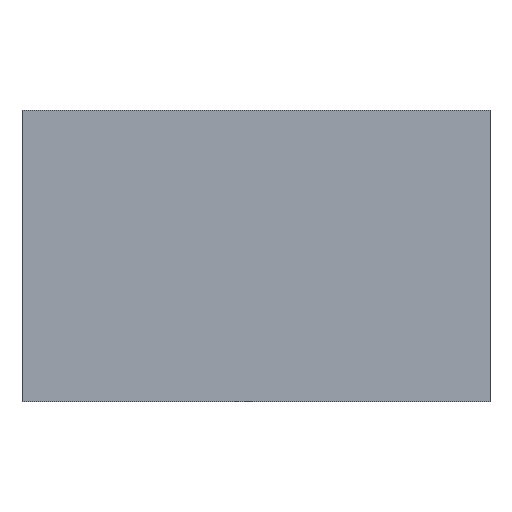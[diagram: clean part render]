
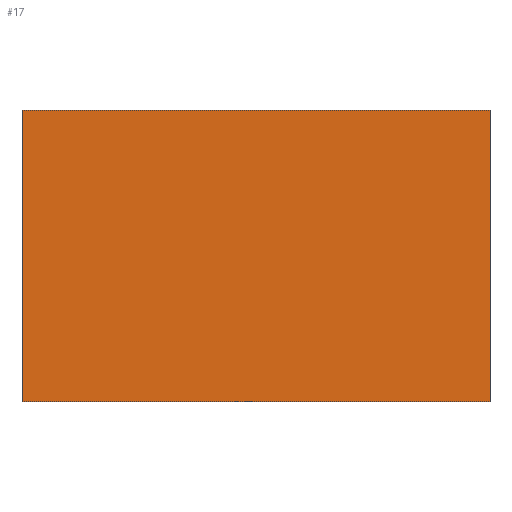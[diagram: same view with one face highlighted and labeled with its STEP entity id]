
A CAD part, left-side view. The second image highlights one B-rep face of the part: STEP entity #17.
In plain terms, the highlighted planar face has unit normal (-1, 0, 0).
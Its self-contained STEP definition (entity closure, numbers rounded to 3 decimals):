
#17 = ADVANCED_FACE('f000',(#18),#32,.F.);
#18 = FACE_BOUND('',#19,.F.);
#19 = EDGE_LOOP('',(#20,#55,#83,#111));
#20 = ORIENTED_EDGE('',*,*,#21,.F.);
#21 = EDGE_CURVE('',#22,#24,#26,.T.);
#22 = VERTEX_POINT('',#23);
#23 = CARTESIAN_POINT('',(0.,0.,0.));
#24 = VERTEX_POINT('',#25);
#25 = CARTESIAN_POINT('',(0.,0.,30.046));
#26 = SURFACE_CURVE('',#27,(#31,#43),.PCURVE_S1.);
#27 = LINE('',#28,#29);
#28 = CARTESIAN_POINT('',(0.,0.,0.));
#29 = VECTOR('',#30,1.);
#30 = DIRECTION('',(0.,0.,1.));
#31 = PCURVE('',#32,#37);
#32 = PLANE('',#33);
#33 = AXIS2_PLACEMENT_3D('',#34,#35,#36);
#34 = CARTESIAN_POINT('',(0.,0.,0.));
#35 = DIRECTION('',(1.,0.,-0.));
#36 = DIRECTION('',(0.,0.,1.));
#37 = DEFINITIONAL_REPRESENTATION('',(#38),#42);
#38 = LINE('',#39,#40);
#39 = CARTESIAN_POINT('',(0.,0.));
#40 = VECTOR('',#41,1.);
#41 = DIRECTION('',(1.,0.));
#42 = ( GEOMETRIC_REPRESENTATION_CONTEXT(2) 
PARAMETRIC_REPRESENTATION_CONTEXT() REPRESENTATION_CONTEXT('2D SPACE',''
  ) );
#43 = PCURVE('',#44,#49);
#44 = PLANE('',#45);
#45 = AXIS2_PLACEMENT_3D('',#46,#47,#48);
#46 = CARTESIAN_POINT('',(0.,0.,0.));
#47 = DIRECTION('',(-0.,1.,0.));
#48 = DIRECTION('',(0.,0.,1.));
#49 = DEFINITIONAL_REPRESENTATION('',(#50),#54);
#50 = LINE('',#51,#52);
#51 = CARTESIAN_POINT('',(0.,0.));
#52 = VECTOR('',#53,1.);
#53 = DIRECTION('',(1.,0.));
#54 = ( GEOMETRIC_REPRESENTATION_CONTEXT(2) 
PARAMETRIC_REPRESENTATION_CONTEXT() REPRESENTATION_CONTEXT('2D SPACE',''
  ) );
#55 = ORIENTED_EDGE('',*,*,#56,.T.);
#56 = EDGE_CURVE('',#22,#57,#59,.T.);
#57 = VERTEX_POINT('',#58);
#58 = CARTESIAN_POINT('',(0.,48.245,0.));
#59 = SURFACE_CURVE('',#60,(#64,#71),.PCURVE_S1.);
#60 = LINE('',#61,#62);
#61 = CARTESIAN_POINT('',(0.,0.,0.));
#62 = VECTOR('',#63,1.);
#63 = DIRECTION('',(-0.,1.,0.));
#64 = PCURVE('',#32,#65);
#65 = DEFINITIONAL_REPRESENTATION('',(#66),#70);
#66 = LINE('',#67,#68);
#67 = CARTESIAN_POINT('',(0.,0.));
#68 = VECTOR('',#69,1.);
#69 = DIRECTION('',(0.,-1.));
#70 = ( GEOMETRIC_REPRESENTATION_CONTEXT(2) 
PARAMETRIC_REPRESENTATION_CONTEXT() REPRESENTATION_CONTEXT('2D SPACE',''
  ) );
#71 = PCURVE('',#72,#77);
#72 = PLANE('',#73);
#73 = AXIS2_PLACEMENT_3D('',#74,#75,#76);
#74 = CARTESIAN_POINT('',(0.,0.,0.));
#75 = DIRECTION('',(0.,0.,1.));
#76 = DIRECTION('',(1.,0.,-0.));
#77 = DEFINITIONAL_REPRESENTATION('',(#78),#82);
#78 = LINE('',#79,#80);
#79 = CARTESIAN_POINT('',(0.,0.));
#80 = VECTOR('',#81,1.);
#81 = DIRECTION('',(0.,1.));
#82 = ( GEOMETRIC_REPRESENTATION_CONTEXT(2) 
PARAMETRIC_REPRESENTATION_CONTEXT() REPRESENTATION_CONTEXT('2D SPACE',''
  ) );
#83 = ORIENTED_EDGE('',*,*,#84,.T.);
#84 = EDGE_CURVE('',#57,#85,#87,.T.);
#85 = VERTEX_POINT('',#86);
#86 = CARTESIAN_POINT('',(0.,48.245,30.046));
#87 = SURFACE_CURVE('',#88,(#92,#99),.PCURVE_S1.);
#88 = LINE('',#89,#90);
#89 = CARTESIAN_POINT('',(0.,48.245,0.));
#90 = VECTOR('',#91,1.);
#91 = DIRECTION('',(0.,0.,1.));
#92 = PCURVE('',#32,#93);
#93 = DEFINITIONAL_REPRESENTATION('',(#94),#98);
#94 = LINE('',#95,#96);
#95 = CARTESIAN_POINT('',(0.,-48.245));
#96 = VECTOR('',#97,1.);
#97 = DIRECTION('',(1.,0.));
#98 = ( GEOMETRIC_REPRESENTATION_CONTEXT(2) 
PARAMETRIC_REPRESENTATION_CONTEXT() REPRESENTATION_CONTEXT('2D SPACE',''
  ) );
#99 = PCURVE('',#100,#105);
#100 = PLANE('',#101);
#101 = AXIS2_PLACEMENT_3D('',#102,#103,#104);
#102 = CARTESIAN_POINT('',(0.,48.245,0.));
#103 = DIRECTION('',(-0.,1.,0.));
#104 = DIRECTION('',(0.,0.,1.));
#105 = DEFINITIONAL_REPRESENTATION('',(#106),#110);
#106 = LINE('',#107,#108);
#107 = CARTESIAN_POINT('',(0.,0.));
#108 = VECTOR('',#109,1.);
#109 = DIRECTION('',(1.,0.));
#110 = ( GEOMETRIC_REPRESENTATION_CONTEXT(2) 
PARAMETRIC_REPRESENTATION_CONTEXT() REPRESENTATION_CONTEXT('2D SPACE',''
  ) );
#111 = ORIENTED_EDGE('',*,*,#112,.F.);
#112 = EDGE_CURVE('',#24,#85,#113,.T.);
#113 = SURFACE_CURVE('',#114,(#118,#125),.PCURVE_S1.);
#114 = LINE('',#115,#116);
#115 = CARTESIAN_POINT('',(0.,0.,30.046));
#116 = VECTOR('',#117,1.);
#117 = DIRECTION('',(-0.,1.,0.));
#118 = PCURVE('',#32,#119);
#119 = DEFINITIONAL_REPRESENTATION('',(#120),#124);
#120 = LINE('',#121,#122);
#121 = CARTESIAN_POINT('',(30.046,0.));
#122 = VECTOR('',#123,1.);
#123 = DIRECTION('',(0.,-1.));
#124 = ( GEOMETRIC_REPRESENTATION_CONTEXT(2) 
PARAMETRIC_REPRESENTATION_CONTEXT() REPRESENTATION_CONTEXT('2D SPACE',''
  ) );
#125 = PCURVE('',#126,#131);
#126 = PLANE('',#127);
#127 = AXIS2_PLACEMENT_3D('',#128,#129,#130);
#128 = CARTESIAN_POINT('',(0.,0.,30.046));
#129 = DIRECTION('',(0.,0.,1.));
#130 = DIRECTION('',(1.,0.,-0.));
#131 = DEFINITIONAL_REPRESENTATION('',(#132),#136);
#132 = LINE('',#133,#134);
#133 = CARTESIAN_POINT('',(0.,0.));
#134 = VECTOR('',#135,1.);
#135 = DIRECTION('',(0.,1.));
#136 = ( GEOMETRIC_REPRESENTATION_CONTEXT(2) 
PARAMETRIC_REPRESENTATION_CONTEXT() REPRESENTATION_CONTEXT('2D SPACE',''
  ) );
